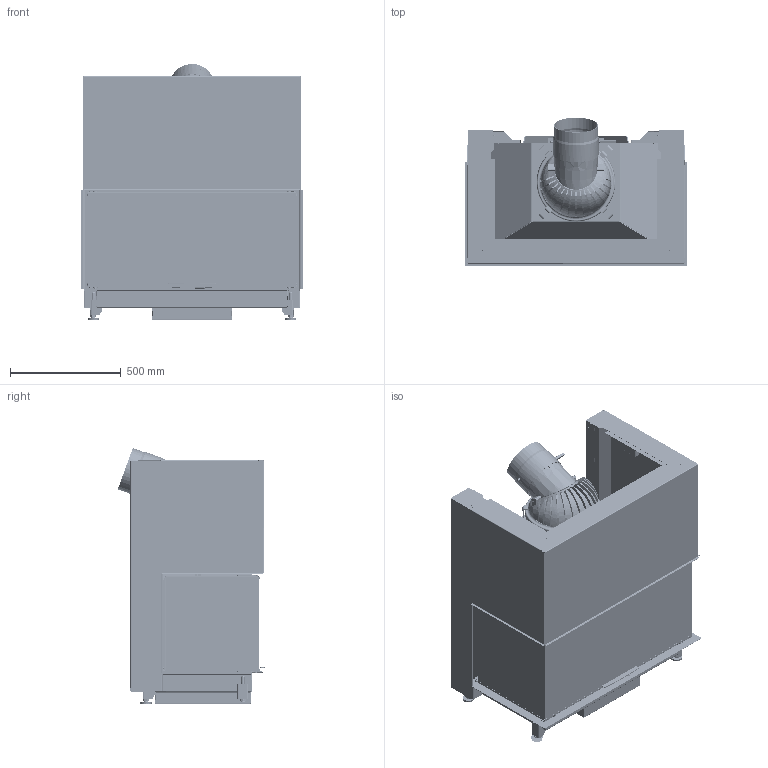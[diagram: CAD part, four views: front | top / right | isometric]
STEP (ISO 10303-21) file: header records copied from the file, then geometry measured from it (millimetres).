
FILE_DESCRIPTION(/* description */ (''),/* implementation_level */ '2;1');
FILE_NAME(/* name */ 'C:\ADSK_DM_WS\CAD_3D\03 Geraete\RIII 45x100x46\Zeichnungen\RIII 45x100x46 ohne Mantel Abgang hinten CAD Planung defriten 2021-03076 211124.stp',/* time_stamp */ '2021-11-24T08:53:16+01:00',/* author */ ('CPI'),/* organization */ (''),/* preprocessor_version */ 'ST-DEVELOPER v18.1',/* originating_system */ 'Autodesk Inventor 2022',/* authorisation */ '');
FILE_SCHEMA (('AUTOMOTIVE_DESIGN { 1 0 10303 214 3 1 1 }'));
Products named in the file (8): 2021-03076; 2021-03059; 2021-03069; 2021-03066; 2021-03064; 2021-03062; 2021-03071; 2018-00985
Assembly tree (7 placements, depth 2):
  2021-03076
    2021-03059
    2021-03069
    2021-03066
    2021-03064
    2021-03062
    2021-03071
    2018-00985
Bounding box: 1000 x 668.79 x 1153.94 mm (x, y, z)
Volume: 33158577.3 mm3; surface area: 17812345.4 mm2
Topology: 14 solids, 29 shells, 8622 faces, 23770 edges, 14996 vertices
Faces by surface type: plane 5193, cylinder 2986, bspline 282, cone 99, torus 61, sphere 1
Full cylindrical faces by diameter (mm): 3.242 x6, 4.8 x5, 6 x3, 7 x11, 7.9 x2, 8 x8, 9 x2, 9.5 x4, 10 x6, 10.21 x4, 11.192 x2, 12 x4, 16 x10, 18 x4, 20 x4, 30 x4, 163 x1, 194 x1, 198 x1, 200 x1, 204 x1, 333 x1, 339 x1
Entity records: 289443 total; most frequent: CARTESIAN_POINT 62093, ORIENTED_EDGE 47482, DIRECTION 46332, EDGE_CURVE 23798, LINE 15800, VECTOR 15800, AXIS2_PLACEMENT_3D 15266, VERTEX_POINT 14993
